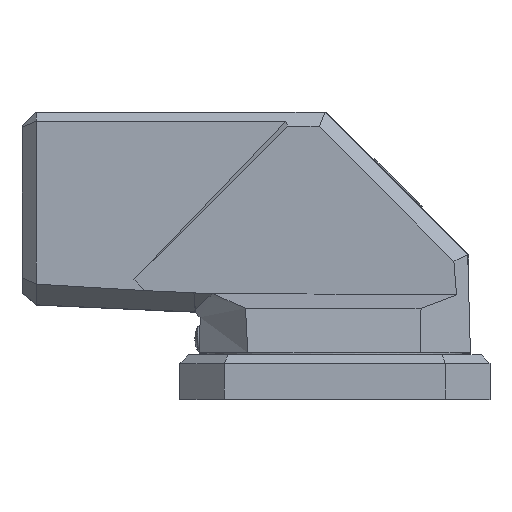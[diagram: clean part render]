
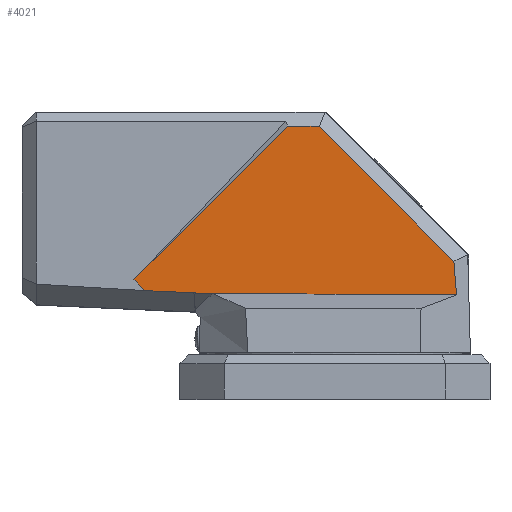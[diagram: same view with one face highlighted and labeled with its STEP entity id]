
A CAD part, top view. The second image highlights one B-rep face of the part: STEP entity #4021.
In plain terms, the highlighted planar face has unit normal (-0.016, -0.016, 1).
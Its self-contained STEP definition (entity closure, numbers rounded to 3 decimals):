
#363=DIRECTION('',(-0.707,0.707,0.));
#364=VECTOR('',#363,8.696);
#365=CARTESIAN_POINT('',(-106.57,-45.531,51.));
#366=LINE('',#365,#364);
#1424=DIRECTION('',(-0.124,-0.992,-0.018));
#1425=VECTOR('',#1424,0.132);
#1426=CARTESIAN_POINT('',(-68.628,-47.,51.577));
#1427=LINE('',#1426,#1425);
#1431=DIRECTION('',(-1.,0.,-0.016));
#1432=VECTOR('',#1431,9.553);
#1433=CARTESIAN_POINT('',(-68.628,-47.,51.577));
#1434=LINE('',#1433,#1432);
#1438=DIRECTION('',(-0.045,-0.999,-0.016));
#1439=VECTOR('',#1438,0.192);
#1440=CARTESIAN_POINT('',(-78.171,-46.808,
51.429));
#1441=LINE('',#1440,#1439);
#1445=DIRECTION('',(0.999,-0.045,0.015));
#1446=VECTOR('',#1445,28.431);
#1447=CARTESIAN_POINT('',(-106.57,-45.531,51.));
#1448=LINE('',#1447,#1446);
#1452=DIRECTION('',(-0.707,-0.707,-0.022));
#1453=VECTOR('',#1452,121.876);
#1454=CARTESIAN_POINT('',(-26.562,46.776,53.724));
#1455=LINE('',#1454,#1453);
#1459=DIRECTION('',(-1.,0.016,-0.016));
#1460=VECTOR('',#1459,17.753);
#1461=CARTESIAN_POINT('',(-8.814,46.5,54.));
#1462=LINE('',#1461,#1460);
#1466=DIRECTION('',(-0.707,0.707,0.));
#1467=VECTOR('',#1466,106.828);
#1468=CARTESIAN_POINT('',(66.725,-29.039,54.));
#1469=LINE('',#1468,#1467);
#1473=DIRECTION('',(0.078,-0.997,-0.015));
#1474=VECTOR('',#1473,18.951);
#1475=CARTESIAN_POINT('',(66.725,-29.039,54.));
#1476=LINE('',#1475,#1474);
#1480=DIRECTION('',(1.,-0.006,0.016));
#1481=VECTOR('',#1480,136.867);
#1482=CARTESIAN_POINT('',(-68.645,-47.131,
51.574));
#1483=LINE('',#1482,#1481);
#2560=CARTESIAN_POINT('',(-26.562,46.776,53.724));
#2562=VERTEX_POINT('',#2560);
#2563=CARTESIAN_POINT('',(-112.72,-39.382,51.));
#2564=VERTEX_POINT('',#2563);
#2565=CARTESIAN_POINT('',(-8.814,46.5,54.));
#2567=VERTEX_POINT('',#2565);
#2781=CARTESIAN_POINT('',(66.725,-29.039,54.));
#2782=CARTESIAN_POINT('',(68.202,-47.93,53.725));
#2783=VERTEX_POINT('',#2781);
#2784=VERTEX_POINT('',#2782);
#2875=CARTESIAN_POINT('',(-106.57,-45.531,51.));
#2876=CARTESIAN_POINT('',(-78.171,-46.808,
51.429));
#2877=VERTEX_POINT('',#2875);
#2878=VERTEX_POINT('',#2876);
#2885=CARTESIAN_POINT('',(-78.18,-47.,51.426));
#2886=VERTEX_POINT('',#2885);
#2891=CARTESIAN_POINT('',(-68.628,-47.,51.577));
#2892=CARTESIAN_POINT('',(-68.645,-47.131,
51.574));
#2893=VERTEX_POINT('',#2891);
#2894=VERTEX_POINT('',#2892);
#3999=CARTESIAN_POINT('',(-17.826,55.512,54.));
#4000=DIRECTION('',(0.016,0.016,-1.));
#4001=DIRECTION('',(-0.707,-0.707,-0.022));
#4002=AXIS2_PLACEMENT_3D('',#3999,#4000,#4001);
#4003=PLANE('',#4002);
#4005=ORIENTED_EDGE('',*,*,#4004,.F.);
#4006=ORIENTED_EDGE('',*,*,#3538,.T.);
#4007=ORIENTED_EDGE('',*,*,#3579,.F.);
#4008=ORIENTED_EDGE('',*,*,#3137,.F.);
#4009=ORIENTED_EDGE('',*,*,#3172,.T.);
#4011=ORIENTED_EDGE('',*,*,#4010,.F.);
#4012=ORIENTED_EDGE('',*,*,#3188,.F.);
#4014=ORIENTED_EDGE('',*,*,#4013,.F.);
#4016=ORIENTED_EDGE('',*,*,#4015,.T.);
#4018=ORIENTED_EDGE('',*,*,#4017,.F.);
#4019=EDGE_LOOP('',(#4005,#4006,#4007,#4008,#4009,#4011,#4012,#4014,#4016,
#4018));
#4020=FACE_OUTER_BOUND('',#4019,.F.);
#4021=ADVANCED_FACE('',(#4020),#4003,.F.);
#3137=EDGE_CURVE('',#2877,#2878,#1448,.T.);
#3172=EDGE_CURVE('',#2877,#2564,#366,.T.);
#3188=EDGE_CURVE('',#2567,#2562,#1462,.T.);
#3538=EDGE_CURVE('',#2893,#2886,#1434,.T.);
#3579=EDGE_CURVE('',#2878,#2886,#1441,.T.);
#4004=EDGE_CURVE('',#2893,#2894,#1427,.T.);
#4010=EDGE_CURVE('',#2562,#2564,#1455,.T.);
#4013=EDGE_CURVE('',#2783,#2567,#1469,.T.);
#4015=EDGE_CURVE('',#2783,#2784,#1476,.T.);
#4017=EDGE_CURVE('',#2894,#2784,#1483,.T.);
